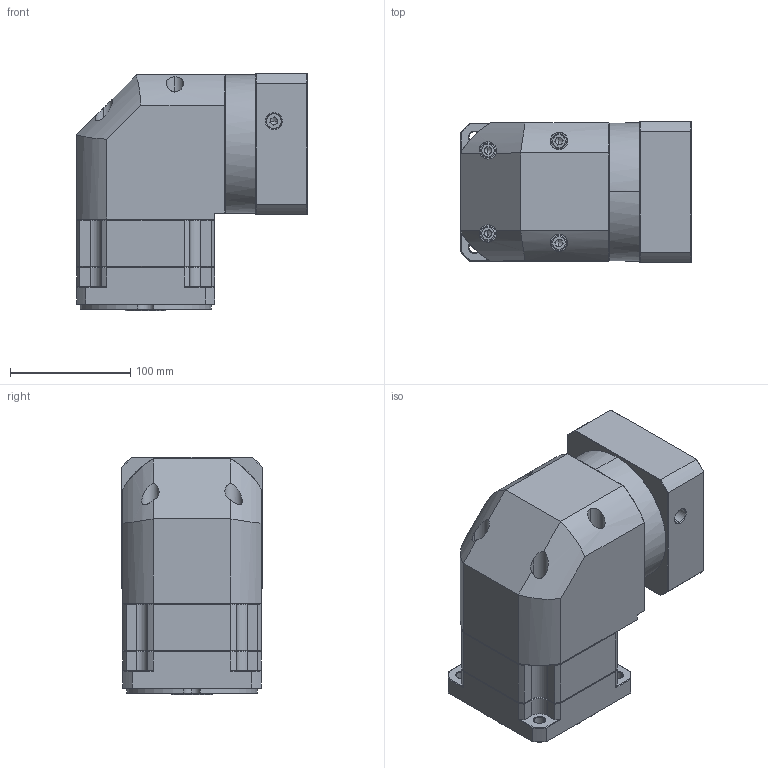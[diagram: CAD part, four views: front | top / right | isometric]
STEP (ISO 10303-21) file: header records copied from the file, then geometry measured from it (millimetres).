
FILE_DESCRIPTION (( 'STEP AP214' ), '1' );
FILE_NAME ('ZBR115A-K25-L1-P2-22-110-130-M8.step', '2023-08-26T12:42:13', ( '' ), ( '' ), 'SwSTEP 2.0', 'SolidWorks 2016', '' );
FILE_SCHEMA (( 'AUTOMOTIVE_DESIGN' ));
Length unit declared in the file: millimetre
Products named in the file (1): ZBR115A-K25-L1-P2-22-110-130-M8
Bounding box: 192.4 x 118 x 198 mm (x, y, z)
Volume: 2891427.9 mm3; surface area: 244581.6 mm2
Topology: 6 solids, 6 shells, 2325 faces, 6080 edges, 3859 vertices
Faces by surface type: plane 1132, bspline 416, cylinder 406, cone 363, torus 8
Entity records: 122598 total; most frequent: CARTESIAN_POINT 43270, ORIENTED_EDGE 12104, DIRECTION 9578, EDGE_CURVE 6052, LINE 3938, VECTOR 3938, VERTEX_POINT 3859, AXIS2_PLACEMENT_3D 2820
